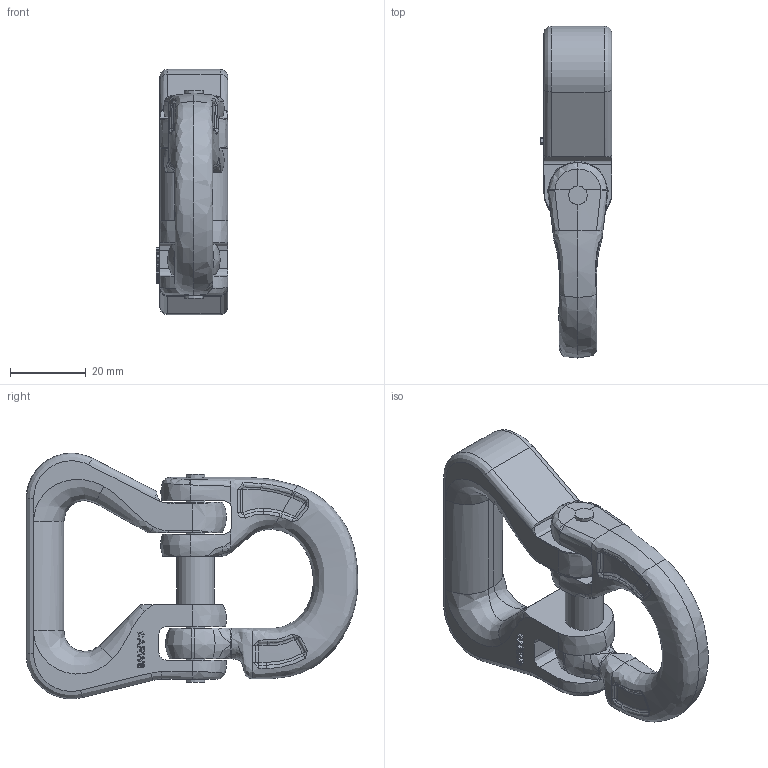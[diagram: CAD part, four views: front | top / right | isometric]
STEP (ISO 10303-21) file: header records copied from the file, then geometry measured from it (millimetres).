
FILE_DESCRIPTION(/* description */ (''),/* implementation_level */ '2;1');
FILE_NAME(/* name */ 'Carw 8 Kundemodell',/* time_stamp */ '2010-01-07T15:25:00+01:00',/* author */ (''),/* organization */ (''),/* preprocessor_version */ 'ST-DEVELOPER v9',/* originating_system */ 'UGS - NX 4.0',/* authorisation */ '');
FILE_SCHEMA (('AUTOMOTIVE_DESIGN { 1 0 10303 214 1 1 1 1 }'));
Length unit declared in the file: millimetre
Products named in the file (1): ritF3E6v4wh
Bounding box: 19 x 87.76 x 64.96 mm (x, y, z)
Volume: 41175.7 mm3; surface area: 16049.6 mm2
Topology: 4 solids, 4 shells, 354 faces, 908 edges, 560 vertices
Faces by surface type: bspline 156, plane 77, extrusion 44, cylinder 35, sphere 18, torus 16, cone 8
Full cylindrical faces by diameter (mm): 5 x8, 10 x1
Entity records: 21127 total; most frequent: CARTESIAN_POINT 14189, ORIENTED_EDGE 1754, DIRECTION 889, EDGE_CURVE 877, VERTEX_POINT 550, B_SPLINE_CURVE_WITH_KNOTS 534, EDGE_LOOP 387, ADVANCED_FACE 354
